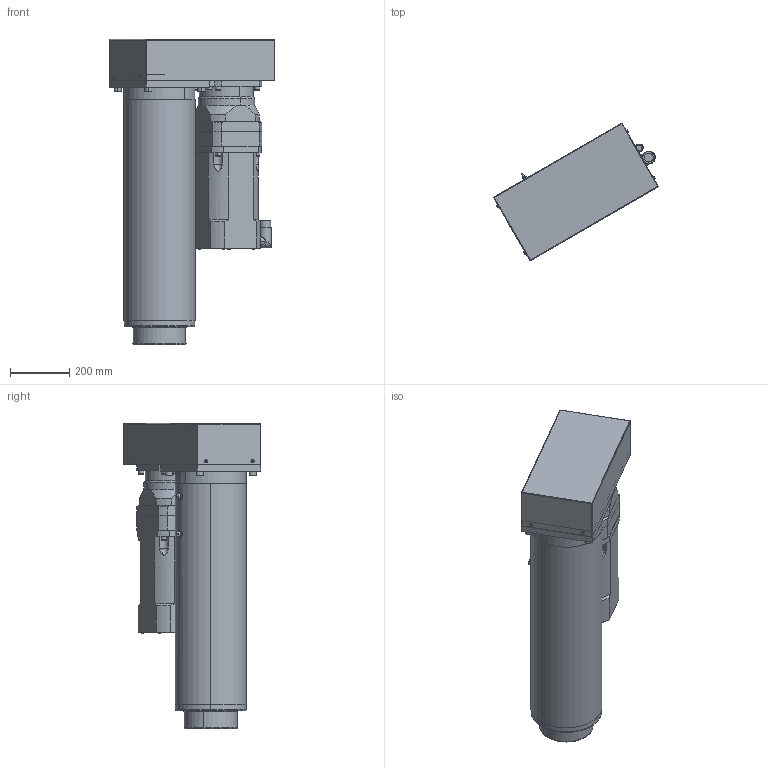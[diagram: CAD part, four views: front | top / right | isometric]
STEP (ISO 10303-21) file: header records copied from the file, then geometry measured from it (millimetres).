
FILE_DESCRIPTION (( 'STEP AP203' ), '1' );
FILE_NAME ('MLN5P2000-035-010NG0.STEP', '2015-10-26T08:01:06', ( 'Holtz' ), ( '' ), 'SwSTEP 2.0', 'SolidWorks 2013', '' );
FILE_SCHEMA (( 'CONFIG_CONTROL_DESIGN' ));
Length unit declared in the file: millimetre
Products named in the file (1): MLN5P2000-035-010NG0
Bounding box: 555.11 x 462.51 x 1026.5 mm (x, y, z)
Surface area: 3808343.4 mm2 (no closed solid volume)
Topology: 0 solids, 48 shells, 1602 faces, 3744 edges, 2260 vertices
Faces by surface type: plane 662, cylinder 600, cone 272, torus 58, bspline 10
Entity records: 46679 total; most frequent: CARTESIAN_POINT 9806, DIRECTION 8129, ORIENTED_EDGE 7160, EDGE_CURVE 3586, AXIS2_PLACEMENT_3D 3124, VERTEX_POINT 2260, EDGE_LOOP 1920, LINE 1881
